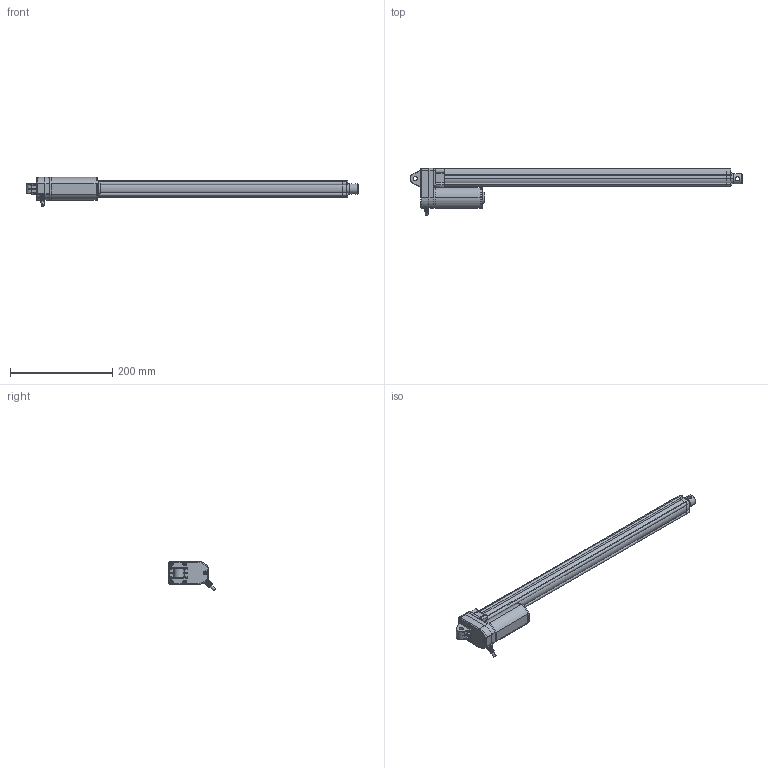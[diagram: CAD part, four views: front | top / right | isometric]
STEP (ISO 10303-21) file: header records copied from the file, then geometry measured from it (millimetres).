
FILE_DESCRIPTION(('STEP AP203'),'1');
FILE_NAME('dj809a1500630a0f011r01111111a01230619193440.stp','2025-06-19T19:34:44',('TraceParts'),('TraceParts S.A.'),'Spatial InterOp 3D',' ',' ');
FILE_SCHEMA(('CONFIG_CONTROL_DESIGN'));
Length unit declared in the file: millimetre
Products named in the file (1): 1
Bounding box: 649.11 x 92.14 x 56.99 mm (x, y, z)
Volume: 789743.3 mm3; surface area: 106426.7 mm2
Topology: 1 solids, 1 shells, 743 faces, 1942 edges, 1207 vertices
Faces by surface type: plane 297, cylinder 195, bspline 121, torus 74, cone 45, sphere 11
Entity records: 29262 total; most frequent: CARTESIAN_POINT 11986, ORIENTED_EDGE 3852, DIRECTION 3371, EDGE_CURVE 1926, AXIS2_PLACEMENT_3D 1283, VERTEX_POINT 1207, LINE 805, VECTOR 805
